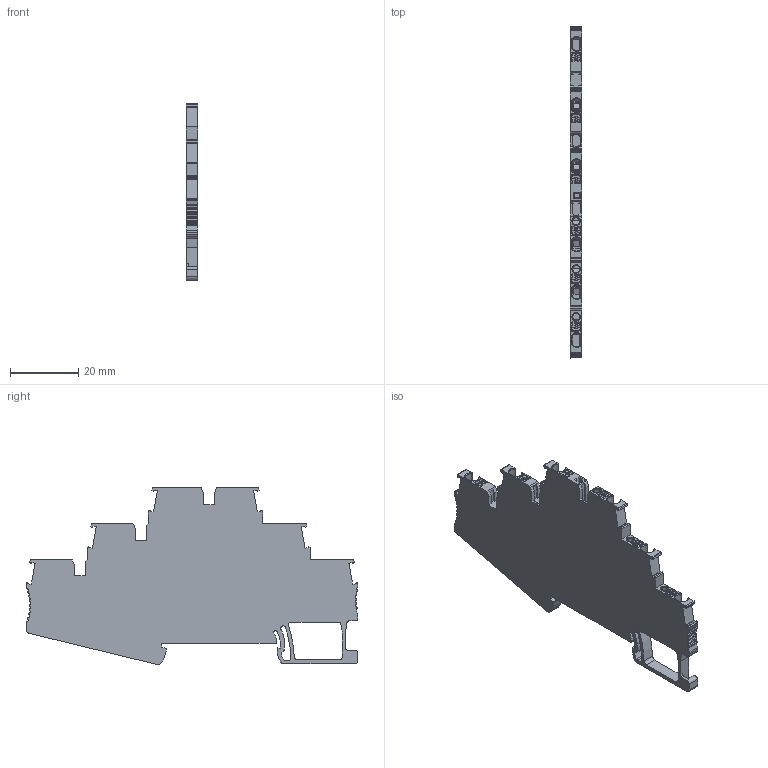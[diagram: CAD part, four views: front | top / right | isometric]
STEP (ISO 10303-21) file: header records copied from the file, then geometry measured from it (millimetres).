
FILE_DESCRIPTION(/* description */ (''),/* implementation_level */ '2;1');
FILE_NAME(/* name */ 'UPT-1.5-3 ASSY.stp',/* time_stamp */ '2024-04-26T12:04:46+08:00',/* author */ (''),/* organization */ (''),/* preprocessor_version */ 'ST-DEVELOPER v16.7',/* originating_system */ 'SIEMENS PLM Software NX 12.0',/* authorisation */ '');
FILE_SCHEMA (('AUTOMOTIVE_DESIGN { 1 0 10303 214 3 1 1 1 }'));
Products named in the file (1): Admi0EB4BAB8ixao
Bounding box: 3.5 x 97.25 x 51.87 mm (x, y, z)
Volume: 10806.1 mm3; surface area: 9530 mm2
Topology: 1 solids, 2 shells, 1723 faces, 4635 edges, 2859 vertices
Faces by surface type: plane 766, cylinder 650, sphere 96, torus 92, cone 71, extrusion 30, bspline 18
Entity records: 58430 total; most frequent: CARTESIAN_POINT 15164, DIRECTION 9142, ORIENTED_EDGE 9114, EDGE_CURVE 4557, AXIS2_PLACEMENT_3D 3151, VERTEX_POINT 2859, VECTOR 2840, LINE 2810
